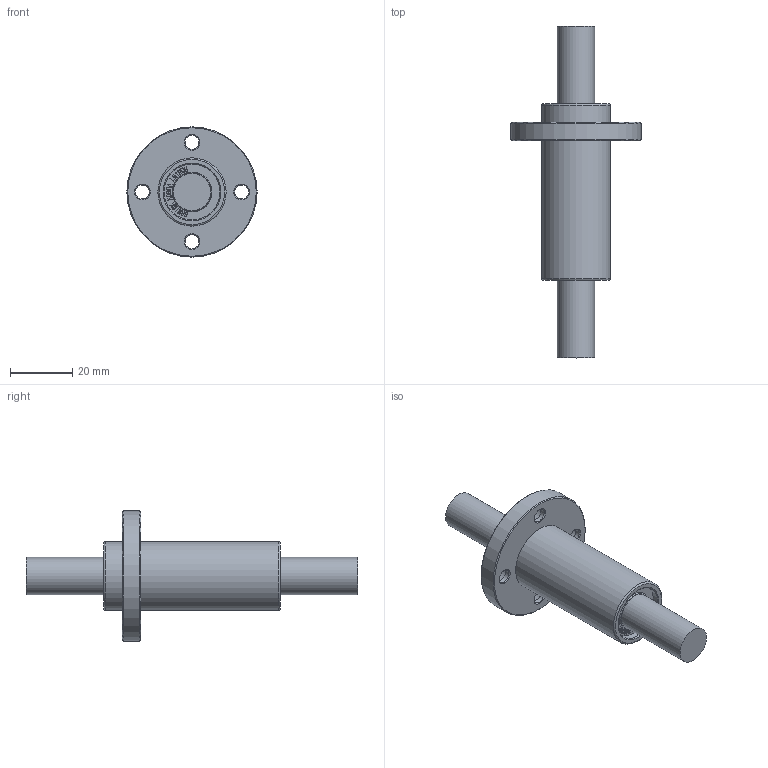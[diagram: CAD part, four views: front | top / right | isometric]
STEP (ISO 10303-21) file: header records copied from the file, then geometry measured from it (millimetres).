
FILE_DESCRIPTION(/* description */ (''),/* implementation_level */ '2;1');
FILE_NAME(/* name */ 'W:\(01) 2024년 홈페이지 CAD파일 최신화\LMEFP_L\IPT\LMEF12LUU.stp',/* time_stamp */ '2025-01-25T11:50:02+09:00',/* author */ ('서우현'),/* organization */ (''),/* preprocessor_version */ 'ST-DEVELOPER v17.2',/* originating_system */ 'Autodesk Inventor 2019',/* authorisation */ '');
FILE_SCHEMA (('AUTOMOTIVE_DESIGN { 1 0 10303 214 3 1 1 }'));
Length unit declared in the file: millimetre
Products named in the file (1): LM5
Bounding box: 42 x 107 x 42 mm (x, y, z)
Volume: 31727.9 mm3; surface area: 9693.4 mm2
Topology: 1 solids, 1 shells, 843 faces, 2379 edges, 1592 vertices
Faces by surface type: bspline 580, plane 232, cylinder 15, cone 14, torus 2
Full cylindrical faces by diameter (mm): 4.5 x4, 8 x4, 12 x2, 18 x2, 22 x2, 42 x1
Entity records: 29048 total; most frequent: CARTESIAN_POINT 10683, ORIENTED_EDGE 4758, EDGE_CURVE 2379, DIRECTION 1829, VERTEX_POINT 1592, B_SPLINE_CURVE_WITH_KNOTS 1160, LINE 1137, VECTOR 1137
